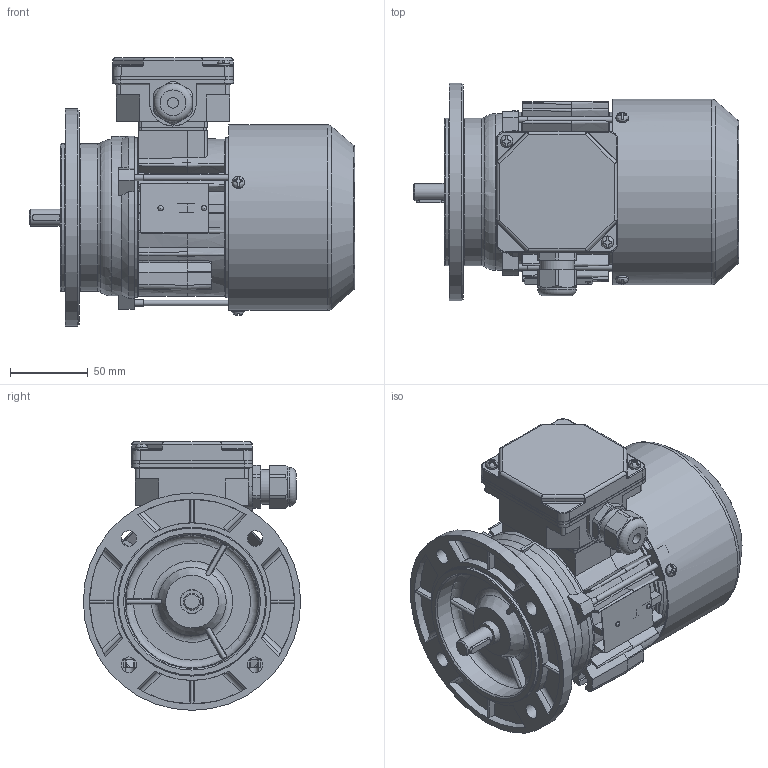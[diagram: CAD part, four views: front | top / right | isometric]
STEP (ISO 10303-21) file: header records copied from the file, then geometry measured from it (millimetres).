
FILE_DESCRIPTION( ( 'Unknown' ), '1' );
FILE_NAME( 'G:/Poczta Tk-1/STP/w.m.63/Sh63/SKh63-B.stp', 'Unknown', ( 'K. Szlosek' ), ( 'BESEL S.A.' ), 'PSStep 17.0.49', 'Unknown', ' ' );
FILE_SCHEMA( ( 'AUTOMOTIVE_DESIGN { 1 0 10303 214 1 1 1 1 }' ) );
Length unit declared in the file: millimetre
Products named in the file (29): Assem1; K1-1110 Tarcza kołnierzowa nowa SKg63-..; K3-9973 Kadłub ze stojanem wykończonym Sh63-B; K3-5320 Tarcza łożyskowa P Sg63; Łożysko 6202; K3-9974 Wał Sh63-B; K2-1769 Przewietrznik Sg63; K3-5321 osłona przewietrznika Sg63; Wpust A4x4x18; Śruba ściągająca E_M4x80; K4-2320 Uszczelka nr 1 Sh71,80; K4-2820 Uszczelka nr 2 Sh71,80; K2-0859 Podstawa skrzynki 6-cio zaciskowej; K2-0860 Pokrywka skrzynki zaciskowej; Wkręt samogwintujący M4x8; Wkręt samogwintujący M4x16; Dławnica M20x1,5; Tabliczka znamionowa 32x44; Nitokołek A 2x6
Assembly tree (45 placements, depth 2):
  Assem1
    K1-1110 Tarcza kołnierzowa nowa SKg63-..
    K3-9973 Kadłub ze stojanem wykończonym Sh63-B
    K3-5320 Tarcza łożyskowa P Sg63
    Łożysko 6202  x2
    Łożysko 6202  x2
    Łożysko 6202  x2
    Łożysko 6202  x2
    Łożysko 6202  x2
    Łożysko 6202  x2
    Łożysko 6202  x2
    Łożysko 6202  x2
    Łożysko 6202  x2
    Łożysko 6202  x2
    Łożysko 6202  x2
    K3-9974 Wał Sh63-B
    K2-1769 Przewietrznik Sg63
    K3-5321 osłona przewietrznika Sg63
    Wpust A4x4x18
    Śruba ściągająca E_M4x80  x3
    K4-2320 Uszczelka nr 1 Sh71,80
    K4-2820 Uszczelka nr 2 Sh71,80
    K2-0859 Podstawa skrzynki 6-cio zaciskowej
    K2-0860 Pokrywka skrzynki zaciskowej
    Wkręt samogwintujący M4x8  x3
    Wkręt samogwintujący M4x16  x2
    Dławnica M20x1,5
    Tabliczka znamionowa 32x44
    Nitokołek A 2x6  x2
Bounding box: 209.5 x 140 x 173 mm (x, y, z)
Volume: 516371.5 mm3; surface area: 354477.1 mm2
Topology: 45 solids, 63 shells, 1843 faces, 5056 edges, 3280 vertices
Faces by surface type: plane 922, cylinder 545, cone 128, torus 112, bspline 97, sphere 39
Full cylindrical faces by diameter (mm): 2 x2, 2.4 x2, 3.3 x3, 3.7 x10, 4 x8, 4.5 x4, 4.8 x4, 5 x4, 7 x4, 8 x6, 10 x4, 11 x1, 12.9 x1, 13.1 x1, 13.5 x1, 15 x4, 15.4 x2, 18.376 x1, 18.38 x1, 19 x2, 19.5 x1, 20 x2, 20.1 x1, 21.52 x4, 22.3 x1, 25 x1, 28 x2, 28.48 x4, 31 x2, 35 x4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
Entity records: 79197 total; most frequent: CARTESIAN_POINT 24913, ORIENTED_EDGE 8676, DIRECTION 8370, EDGE_CURVE 4338, AXIS2_PLACEMENT_3D 3117, VERTEX_POINT 2958, LINE 2136, VECTOR 2136
